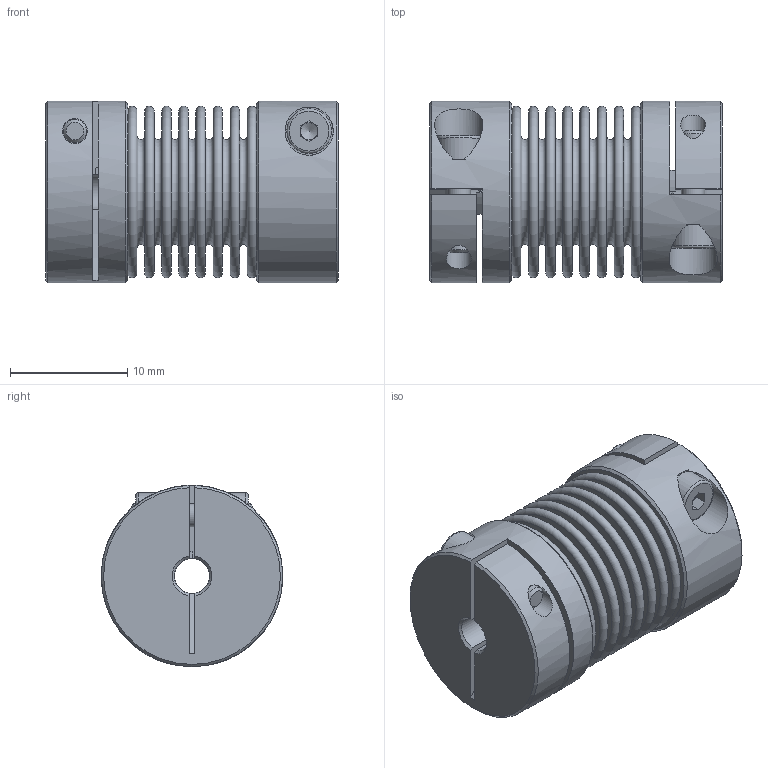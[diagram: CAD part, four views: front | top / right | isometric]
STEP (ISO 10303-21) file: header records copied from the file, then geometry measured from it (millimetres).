
FILE_DESCRIPTION(/* description */ ('STEP AP203'),/* implementation_level */ '2;1');
FILE_NAME(/* name */ 'KB2-5-25-3-3',/* time_stamp */ '2022-09-12T12:48:33+02:00',/* author */ ('License CC BY-ND 4.0'),/* organization */ ('CADENAS'),/* preprocessor_version */ 'ST-DEVELOPER v18.102',/* originating_system */ 'PARTsolutions',/* authorisation */ ' ');
FILE_SCHEMA (('CONFIG_CONTROL_DESIGN'));
Length unit declared in the file: millimetre
Products named in the file (1): KB2-5-25-3-3
Bounding box: 25 x 15.5 x 15.5 mm (x, y, z)
Volume: 2563 mm3; surface area: 5714.3 mm2
Topology: 1 solids, 1 shells, 140 faces, 287 edges, 191 vertices
Faces by surface type: plane 74, torus 32, cylinder 22, cone 12
Full cylindrical faces by diameter (mm): 2 x2, 2.126 x4, 3 x2, 3.8 x2, 9.6 x2, 15.5 x2
Entity records: 3492 total; most frequent: CARTESIAN_POINT 661, DIRECTION 610, ORIENTED_EDGE 448, AXIS2_PLACEMENT_3D 265, FACE_BOUND 242, EDGE_LOOP 240, EDGE_CURVE 224, VERTEX_POINT 182
